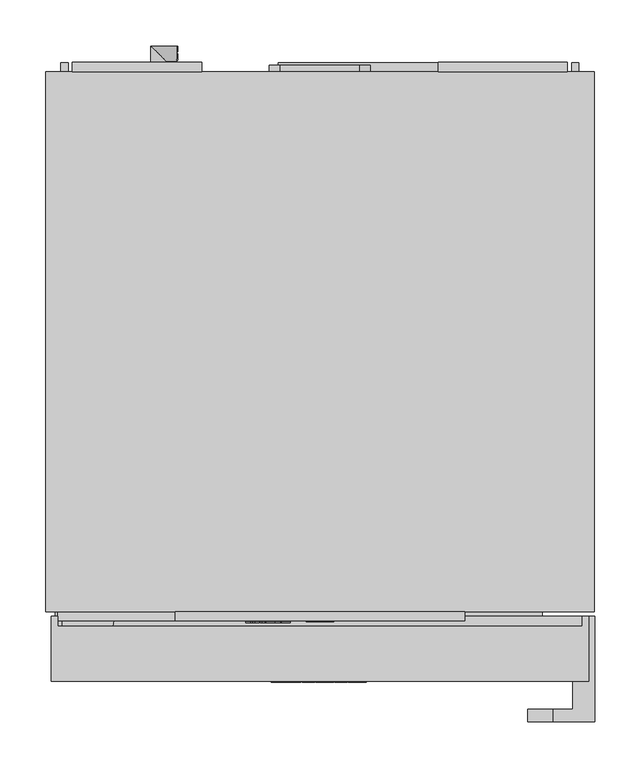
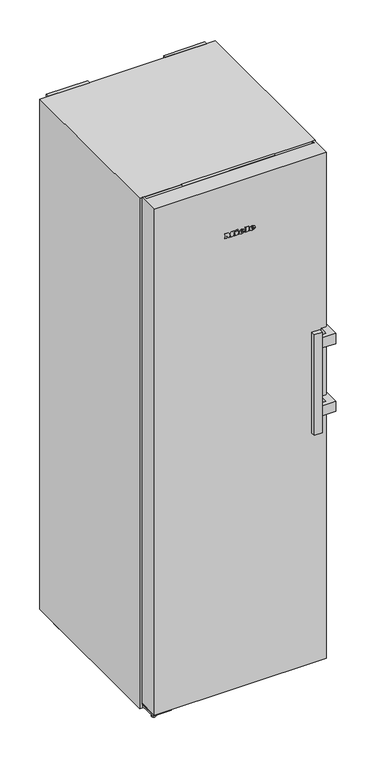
"""IFC4 building model written with IfcOpenShell, lengths in millimetres: proxy geometry, 12430760_EU2_FNS4782D_WS-N : 37478244_EU2_12430760_FNS4782D_WS-N."""

from ifc_helpers import new_model, si_unit, point, frame, frame_2d, origin, origin_with_axes, place, context, project, spatial, polyline, circle_curve, ellipse_curve, trimmed, segment, composite_curve, outline, extrude, faceted_brep, source, transform, mapped, element, save
from ifc_brep_helpers import plane_surface, cylinder_surface, revolved_surface, extruded_surface, advanced_brep


def specialty_equipment_468a70fd(model_context):
    return source(origin(), model_context, "Body", "SolidModel", [
        extrude(outline(polyline([(15.0, -609.5), (-15.0, -609.5), (-15.0, -606.5), (15.0, -606.5), (15.0, -609.5)])), frame((0.0, 0.0, 1812.0), z_axis=(0.0, 0.0, 1.0), x_axis=(1.0, 0.0, 0.0)), (0.0, 0.0, 1.0), 28.0),
        extrude(outline(polyline([(1845.5, 105.0), (1845.5, -105.0), (1806.5, -105.0), (1806.5, 105.0), (1845.5, 105.0)]), holes=[polyline([(1840.0, -15.0), (1840.0, 15.0), (1812.0, 15.0), (1812.0, -15.0), (1840.0, -15.0)])]), frame((0.0, -608.5, 0.0), z_axis=(0.0, 1.0, 0.0), x_axis=(0.0, 0.0, 1.0)), (0.0, 0.0, 1.0), 2.0),
        faceted_brep([(157.5, -598.5, 1802.0), (157.5, -608.5, 1802.0), (-157.5, -608.5, 1802.0), (-157.5, -598.5, 1802.0), (157.5, -598.5, 1850.0), (-157.5, -598.5, 1850.0), (-157.5, -608.5, 1850.0), (157.5, -608.5, 1850.0), (-105.0, -608.5, 1845.5), (105.0, -608.5, 1845.5), (105.0, -608.5, 1806.5), (-105.0, -608.5, 1806.5), (105.0, -606.5, 1845.5), (-105.0, -606.5, 1845.5), (-105.0, -606.5, 1806.5), (105.0, -606.5, 1806.5)], [[[0, 1, 2, 3]], [[4, 5, 6, 7]], [[0, 3, 5, 4]], [[3, 2, 6, 5]], [[2, 1, 7, 6], [8, 9, 10, 11]], [[1, 0, 4, 7]], [[12, 13, 14, 15]], [[13, 12, 9, 8]], [[14, 13, 8, 11]], [[15, 14, 11, 10]], [[12, 15, 10, 9]]]),
        advanced_brep(
        [(39.0804776, -675.5, 1668.7956125), (39.0804776, -675.5, 1670.5126125), (50.4534776, -675.5, 1670.5126125), (30.6654776, -675.5, 1670.5126125), (35.3404776, -675.5, 1664.7666125), (50.1644776, -675.5, 1668.7956125), (45.0304776, -675.5, 1668.7956125), (40.9844776, -675.5, 1666.8916125), (39.0804776, -675.5, 1672.6886125), (39.0804776, -675.5, 1674.5416125), (41.9874776, -675.5, 1674.5416125), (41.9874776, -675.5, 1672.6886125), (39.0804776, -674.5, 1668.7956125), (40.9844776, -674.5, 1666.8916125), (45.0304776, -674.5, 1668.7956125), (50.1644776, -674.5, 1668.7956125), (35.3404776, -674.5, 1664.7666125), (30.6654776, -674.5, 1670.5126125), (50.4534776, -674.5, 1670.5126125), (39.0804776, -674.5, 1670.5126125), (39.0804776, -674.5, 1672.6886125), (41.9874776, -674.5, 1672.6886125), (41.9874776, -674.5, 1674.5416125), (39.0804776, -674.5, 1674.5416125)],
        [
            (0, 1),
            (1, 2),
            (2, 3, ellipse_curve(frame((40.5594776, -675.5, 1670.5126125), z_axis=(0.0, -1.0, 0.0), x_axis=(-1.0, 0.0, 0.0)), 9.894, 8.177)),
            (3, 4, circle_curve(frame((37.2445704, -675.5, 1671.0906125), z_axis=(0.0, -1.0, 0.0), x_axis=(0.0, 0.0, -1.0)), 6.6044337)),
            (4, 5, circle_curve(frame((40.361414, -675.5, 1675.5786125), z_axis=(0.0, -1.0, 0.0), x_axis=(0.0, 0.0, -1.0)), 11.9209541)),
            (5, 6),
            (6, 7, circle_curve(frame((41.8154776, -675.5, 1670.3766125), z_axis=(0.0, 1.0, 0.0), x_axis=(0.0, 0.0, -1.0)), 3.5827065)),
            (7, 0, circle_curve(frame((40.9844776, -675.5, 1668.7956125), z_axis=(0.0, 1.0, 0.0), x_axis=(0.0, 0.0, -1.0)), 1.904)),
            (8, 9),
            (9, 10, circle_curve(frame((40.5339776, -675.5, 1674.5416125), z_axis=(0.0, 1.0, 0.0), x_axis=(0.0, 0.0, -1.0)), 1.4535)),
            (10, 11),
            (11, 8),
            (12, 13, circle_curve(frame((40.9844776, -674.5, 1668.7956125), z_axis=(0.0, -1.0, 0.0), x_axis=(0.0, 0.0, -1.0)), 1.904)),
            (13, 14, circle_curve(frame((41.8154776, -674.5, 1670.3766125), z_axis=(0.0, -1.0, 0.0), x_axis=(0.0, 0.0, -1.0)), 3.5827065)),
            (14, 15),
            (15, 16, circle_curve(frame((40.361414, -674.5, 1675.5786125), z_axis=(0.0, 1.0, 0.0), x_axis=(0.0, 0.0, -1.0)), 11.9209541)),
            (16, 17, circle_curve(frame((37.2445704, -674.5, 1671.0906125), z_axis=(0.0, 1.0, 0.0), x_axis=(0.0, 0.0, -1.0)), 6.6044337)),
            (17, 18, ellipse_curve(frame((40.5594776, -674.5, 1670.5126125), z_axis=(0.0, 1.0, 0.0), x_axis=(-1.0, 0.0, 0.0)), 9.894, 8.177)),
            (18, 19),
            (19, 12),
            (20, 21),
            (21, 22),
            (22, 23, circle_curve(frame((40.5339776, -674.5, 1674.5416125), z_axis=(0.0, -1.0, 0.0), x_axis=(0.0, 0.0, -1.0)), 1.4535)),
            (23, 20),
            (0, 12),
            (19, 1),
            (18, 2),
            (5, 15),
            (14, 6),
            (17, 3),
            (13, 7),
            (16, 4),
            (8, 20),
            (23, 9),
            (22, 10),
            (21, 11),
        ],
        [
            plane_surface(frame((39.0804776, -675.5, 1670.5126125), z_axis=(0.0, -1.0, 0.0), x_axis=(0.0, 0.0, 1.0))),
            plane_surface(frame((39.0804776, -674.5, 1670.5126125), z_axis=(0.0, 1.0, 0.0), x_axis=(0.0, 0.0, -1.0))),
            plane_surface(frame((39.0804776, -675.5, 1668.7956125), z_axis=(1.0, 0.0, 0.0), x_axis=(0.0, 1.0, 0.0))),
            plane_surface(frame((39.0804776, -675.5, 1670.5126125), z_axis=(0.0, 0.0, -1.0), x_axis=(0.0, 1.0, 0.0))),
            plane_surface(frame((50.1644776, -675.5, 1668.7956125), z_axis=(0.0, 0.0, 1.0), x_axis=(0.0, 1.0, 0.0))),
            extruded_surface(trimmed(ellipse_curve(frame((40.5594776, -673.5, 1670.5126125), z_axis=(0.0, -1.0, 0.0), x_axis=(-1.0, 0.0, 0.0)), 9.894, 8.177), [point((50.4534776, -673.5, 1670.5126125))], [point((30.6654776, -673.5, 1670.5126125))], True, "CARTESIAN"), (0.0, -1.0, 0.0), 1.0),
            revolved_surface(polyline([(41.8154776, -674.5, 1666.7939059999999), (41.8154776, -675.5, 1666.7939059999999)]), (41.8154776, -674.5, 1670.3766125), (0.0, 1.0, 0.0)),
            revolved_surface(polyline([(40.9844776, -674.5, 1666.8916125), (40.9844776, -675.5, 1666.8916125)]), (40.9844776, -674.5, 1668.7956125), (0.0, 1.0, 0.0)),
            cylinder_surface(frame((37.2445704, -674.5, 1671.0906125), z_axis=(0.0, -1.0, 0.0), x_axis=(0.0, 0.0, -1.0)), 6.6044337),
            cylinder_surface(frame((40.361414, -674.5, 1675.5786125), z_axis=(0.0, -1.0, 0.0), x_axis=(0.0, 0.0, -1.0)), 11.9209541),
            plane_surface(frame((39.0804776, -675.5, 1672.6886125), z_axis=(1.0, 0.0, 0.0), x_axis=(0.0, 1.0, 0.0))),
            revolved_surface(polyline([(40.5339776, -674.5, 1673.0881124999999), (40.5339776, -675.5, 1673.0881124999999)]), (40.5339776, -674.5, 1674.5416125), (0.0, 1.0, 0.0)),
            plane_surface(frame((41.9874776, -675.5, 1674.5416125), z_axis=(-1.0, 0.0, 0.0), x_axis=(0.0, 1.0, 0.0))),
            plane_surface(frame((41.9874776, -675.5, 1672.6886125), z_axis=(0.0, 0.0, 1.0), x_axis=(0.0, 1.0, 0.0))),
        ],
        [
            (0, [[1, 2, 3, 4, 5, 6, 7, 8], [9, 10, 11, 12]]),
            (1, [[13, 14, 15, 16, 17, 18, 19, 20], [21, 22, 23, 24]]),
            (2, [[-1, 25, -20, 26]]),
            (3, [[-2, -26, -19, 27]]),
            (4, [[-6, 28, -15, 29]]),
            (5, [[-3, -27, -18, 30]]),
            (6, [[-7, -29, -14, 31]]),
            (7, [[-8, -31, -13, -25]]),
            (8, [[-4, -30, -17, 32]]),
            (9, [[-5, -32, -16, -28]]),
            (10, [[-9, 33, -24, 34]]),
            (11, [[-10, -34, -23, 35]]),
            (12, [[-11, -35, -22, 36]]),
            (13, [[-12, -36, -21, -33]]),
        ],
    ),
        advanced_brep(
        [(3.6014776, -675.5, 1668.7956125), (3.6014776, -675.5, 1670.5126125), (14.9744776, -675.5, 1670.5126125), (-4.8135224, -675.5, 1670.5126125), (-0.1385224, -675.5, 1664.7666125), (14.6854776, -675.5, 1668.7956125), (9.5514776, -675.5, 1668.7956125), (5.5054776, -675.5, 1666.8916125), (3.6014776, -675.5, 1672.6886125), (3.6014776, -675.5, 1674.5416125), (6.5084776, -675.5, 1674.5416125), (6.5084776, -675.5, 1672.6886125), (3.6014776, -674.5, 1668.7956125), (5.5054776, -674.5, 1666.8916125), (9.5514776, -674.5, 1668.7956125), (14.6854776, -674.5, 1668.7956125), (-0.1385224, -674.5, 1664.7666125), (-4.8135224, -674.5, 1670.5126125), (14.9744776, -674.5, 1670.5126125), (3.6014776, -674.5, 1670.5126125), (3.6014776, -674.5, 1672.6886125), (6.5084776, -674.5, 1672.6886125), (6.5084776, -674.5, 1674.5416125), (3.6014776, -674.5, 1674.5416125)],
        [
            (0, 1),
            (1, 2),
            (2, 3, ellipse_curve(frame((5.0804776, -675.5, 1670.5126125), z_axis=(0.0, -1.0, 0.0), x_axis=(-1.0, 0.0, 0.0)), 9.894, 8.177)),
            (3, 4, circle_curve(frame((1.7655704, -675.5, 1671.0906125), z_axis=(0.0, -1.0, 0.0), x_axis=(0.0, 0.0, -1.0)), 6.6044337)),
            (4, 5, circle_curve(frame((4.882414, -675.5, 1675.5786125), z_axis=(0.0, -1.0, 0.0), x_axis=(0.0, 0.0, -1.0)), 11.9209541)),
            (5, 6),
            (6, 7, circle_curve(frame((6.3364776, -675.5, 1670.3766125), z_axis=(0.0, 1.0, 0.0), x_axis=(0.0, 0.0, -1.0)), 3.5827065)),
            (7, 0, circle_curve(frame((5.5054776, -675.5, 1668.7956125), z_axis=(0.0, 1.0, 0.0), x_axis=(0.0, 0.0, -1.0)), 1.904)),
            (8, 9),
            (9, 10, circle_curve(frame((5.0549776, -675.5, 1674.5416125), z_axis=(0.0, 1.0, 0.0), x_axis=(0.0, 0.0, -1.0)), 1.4535)),
            (10, 11),
            (11, 8),
            (12, 13, circle_curve(frame((5.5054776, -674.5, 1668.7956125), z_axis=(0.0, -1.0, 0.0), x_axis=(0.0, 0.0, -1.0)), 1.904)),
            (13, 14, circle_curve(frame((6.3364776, -674.5, 1670.3766125), z_axis=(0.0, -1.0, 0.0), x_axis=(0.0, 0.0, -1.0)), 3.5827065)),
            (14, 15),
            (15, 16, circle_curve(frame((4.882414, -674.5, 1675.5786125), z_axis=(0.0, 1.0, 0.0), x_axis=(0.0, 0.0, -1.0)), 11.9209541)),
            (16, 17, circle_curve(frame((1.7655704, -674.5, 1671.0906125), z_axis=(0.0, 1.0, 0.0), x_axis=(0.0, 0.0, -1.0)), 6.6044337)),
            (17, 18, ellipse_curve(frame((5.0804776, -674.5, 1670.5126125), z_axis=(0.0, 1.0, 0.0), x_axis=(-1.0, 0.0, 0.0)), 9.894, 8.177)),
            (18, 19),
            (19, 12),
            (20, 21),
            (21, 22),
            (22, 23, circle_curve(frame((5.0549776, -674.5, 1674.5416125), z_axis=(0.0, -1.0, 0.0), x_axis=(0.0, 0.0, -1.0)), 1.4535)),
            (23, 20),
            (0, 12),
            (19, 1),
            (18, 2),
            (5, 15),
            (14, 6),
            (17, 3),
            (13, 7),
            (16, 4),
            (8, 20),
            (23, 9),
            (22, 10),
            (21, 11),
        ],
        [
            plane_surface(frame((3.6014776, -675.5, 1670.5126125), z_axis=(0.0, -1.0, 0.0), x_axis=(0.0, 0.0, 1.0))),
            plane_surface(frame((3.6014776, -674.5, 1670.5126125), z_axis=(0.0, 1.0, 0.0), x_axis=(0.0, 0.0, -1.0))),
            plane_surface(frame((3.6014776, -675.5, 1668.7956125), z_axis=(1.0, 0.0, 0.0), x_axis=(0.0, 1.0, 0.0))),
            plane_surface(frame((3.6014776, -675.5, 1670.5126125), z_axis=(0.0, 0.0, -1.0), x_axis=(0.0, 1.0, 0.0))),
            plane_surface(frame((14.6854776, -675.5, 1668.7956125), z_axis=(0.0, 0.0, 1.0), x_axis=(0.0, 1.0, 0.0))),
            extruded_surface(trimmed(ellipse_curve(frame((5.0804776, -673.5, 1670.5126125), z_axis=(0.0, -1.0, 0.0), x_axis=(-1.0, 0.0, 0.0)), 9.894, 8.177), [point((14.9744776, -673.5, 1670.5126125))], [point((-4.8135224, -673.5, 1670.5126125))], True, "CARTESIAN"), (0.0, -1.0, 0.0), 1.0),
            revolved_surface(polyline([(6.3364776, -674.5, 1666.7939059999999), (6.3364776, -675.5, 1666.7939059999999)]), (6.3364776, -674.5, 1670.3766125), (0.0, 1.0, 0.0)),
            revolved_surface(polyline([(5.5054776, -674.5, 1666.8916125), (5.5054776, -675.5, 1666.8916125)]), (5.5054776, -674.5, 1668.7956125), (0.0, 1.0, 0.0)),
            cylinder_surface(frame((1.7655704, -674.5, 1671.0906125), z_axis=(0.0, -1.0, 0.0), x_axis=(0.0, 0.0, -1.0)), 6.6044337),
            cylinder_surface(frame((4.882414, -674.5, 1675.5786125), z_axis=(0.0, -1.0, 0.0), x_axis=(0.0, 0.0, -1.0)), 11.9209541),
            plane_surface(frame((3.6014776, -675.5, 1672.6886125), z_axis=(1.0, 0.0, 0.0), x_axis=(0.0, 1.0, 0.0))),
            revolved_surface(polyline([(5.0549776, -674.5, 1673.0881124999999), (5.0549776, -675.5, 1673.0881124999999)]), (5.0549776, -674.5, 1674.5416125), (0.0, 1.0, 0.0)),
            plane_surface(frame((6.5084776, -675.5, 1674.5416125), z_axis=(-1.0, 0.0, 0.0), x_axis=(0.0, 1.0, 0.0))),
            plane_surface(frame((6.5084776, -675.5, 1672.6886125), z_axis=(0.0, 0.0, 1.0), x_axis=(0.0, 1.0, 0.0))),
        ],
        [
            (0, [[1, 2, 3, 4, 5, 6, 7, 8], [9, 10, 11, 12]]),
            (1, [[13, 14, 15, 16, 17, 18, 19, 20], [21, 22, 23, 24]]),
            (2, [[-1, 25, -20, 26]]),
            (3, [[-2, -26, -19, 27]]),
            (4, [[-6, 28, -15, 29]]),
            (5, [[-3, -27, -18, 30]]),
            (6, [[-7, -29, -14, 31]]),
            (7, [[-8, -31, -13, -25]]),
            (8, [[-4, -30, -17, 32]]),
            (9, [[-5, -32, -16, -28]]),
            (10, [[-9, 33, -24, 34]]),
            (11, [[-10, -34, -23, 35]]),
            (12, [[-11, -35, -22, 36]]),
            (13, [[-12, -36, -21, -33]]),
        ],
    ),
        extrude(outline(polyline([(1680.7636125, -14.9795224), (1678.0096125, -13.6875224), (1680.6956125, -7.9245224), (1683.4496125, -9.1995224), (1680.7636125, -14.9795224)])), frame((0.0, -675.5, 0.0), z_axis=(0.0, 1.0, 0.0), x_axis=(0.0, 0.0, 1.0)), (0.0, 0.0, 1.0), 1.0),
        extrude(outline(polyline([(1677.6356125, -19.1785224), (1674.5926125, -19.1785224), (1674.5926125, -17.1555224), (1667.6226125, -17.1555224), (1667.6226125, -19.1785224), (1664.7666125, -19.1785224), (1664.7666125, -5.7655224), (1667.6226125, -5.7655224), (1667.6226125, -7.7375224), (1677.6356125, -7.7375224), (1677.6356125, -19.1785224)])), frame((0.0, -675.5, 0.0), z_axis=(0.0, 1.0, 0.0), x_axis=(0.0, 0.0, 1.0)), (0.0, 0.0, 1.0), 1.0),
        extrude(outline(polyline([(1678.9956125, 15.9264776), (1678.9956125, 17.9664776), (1667.6226125, 17.9664776), (1667.6226125, 15.9264776), (1664.7666125, 15.9264776), (1664.7666125, 29.7134776), (1667.6226125, 29.7134776), (1667.6226125, 27.6224776), (1681.7666125, 27.6224776), (1681.7666125, 15.9264776), (1678.9956125, 15.9264776)])), frame((0.0, -675.5, 0.0), z_axis=(0.0, 1.0, 0.0), x_axis=(0.0, 0.0, 1.0)), (0.0, 0.0, 1.0), 1.0),
        extrude(outline(polyline([(1678.9956125, -53.0595224), (1678.9956125, -51.0025224), (1667.6226125, -51.0025224), (1667.6226125, -53.0595224), (1664.7666125, -53.0595224), (1664.7666125, -45.5795224), (1667.6226125, -45.5795224), (1667.6226125, -47.6195224), (1674.7967372, -47.6195224), (1664.7666125, -40.0205224), (1675.2068348, -32.3875224), (1667.6226125, -32.3875224), (1667.6226125, -34.4785224), (1664.7666125, -34.4785224), (1664.7666125, -20.9125224), (1667.6226125, -20.9125224), (1667.6226125, -23.0715224), (1678.9956125, -23.0715224), (1678.9956125, -20.9125224), (1681.7666125, -20.9125224), (1681.7666125, -31.2655224), (1675.3916125, -36.2295224), (1681.7666125, -41.2105224), (1681.7666125, -53.0595224), (1678.9956125, -53.0595224)])), frame((0.0, -675.5, 0.0), z_axis=(0.0, 1.0, 0.0), x_axis=(0.0, 0.0, 1.0)), (0.0, 0.0, 1.0), 1.0),
        advanced_brep(
        [(-37.64, -610.5, 1828.896), (-37.64, -610.5, 1829.704), (-32.288, -610.5, 1829.704), (-41.6, -610.5, 1829.704), (-39.4, -610.5, 1827.0), (-32.424, -610.5, 1828.896), (-34.84, -610.5, 1828.896), (-36.744, -610.5, 1828.0), (-37.64, -610.5, 1830.728), (-37.64, -610.5, 1831.6), (-36.272, -610.5, 1831.6), (-36.272, -610.5, 1830.728), (-37.64, -609.5, 1828.896), (-36.744, -609.5, 1828.0), (-34.84, -609.5, 1828.896), (-32.424, -609.5, 1828.896), (-39.4, -609.5, 1827.0), (-41.6, -609.5, 1829.704), (-32.288, -609.5, 1829.704), (-37.64, -609.5, 1829.704), (-37.64, -609.5, 1830.728), (-36.272, -609.5, 1830.728), (-36.272, -609.5, 1831.6), (-37.64, -609.5, 1831.6)],
        [
            (0, 1),
            (1, 2),
            (2, 3, ellipse_curve(frame((-36.944, -610.5, 1829.704), z_axis=(0.0, -1.0, 0.0), x_axis=(-1.0, 0.0, 0.0)), 4.656, 3.848)),
            (3, 4, circle_curve(frame((-38.5039564, -610.5, 1829.976), z_axis=(0.0, -1.0, 0.0), x_axis=(0.0, 0.0, -1.0)), 3.1079688)),
            (4, 5, circle_curve(frame((-37.0372064, -610.5, 1832.088), z_axis=(0.0, -1.0, 0.0), x_axis=(0.0, 0.0, -1.0)), 5.6098607)),
            (5, 6),
            (6, 7, circle_curve(frame((-36.3529412, -610.5, 1829.64), z_axis=(0.0, 1.0, 0.0), x_axis=(0.0, 0.0, -1.0)), 1.6859795)),
            (7, 0, circle_curve(frame((-36.744, -610.5, 1828.896), z_axis=(0.0, 1.0, 0.0), x_axis=(0.0, 0.0, -1.0)), 0.896)),
            (8, 9),
            (9, 10, circle_curve(frame((-36.956, -610.5, 1831.6), z_axis=(0.0, 1.0, 0.0), x_axis=(0.0, 0.0, -1.0)), 0.684)),
            (10, 11),
            (11, 8),
            (12, 13, circle_curve(frame((-36.744, -609.5, 1828.896), z_axis=(0.0, -1.0, 0.0), x_axis=(0.0, 0.0, -1.0)), 0.896)),
            (13, 14, circle_curve(frame((-36.3529412, -609.5, 1829.64), z_axis=(0.0, -1.0, 0.0), x_axis=(0.0, 0.0, -1.0)), 1.6859795)),
            (14, 15),
            (15, 16, circle_curve(frame((-37.0372064, -609.5, 1832.088), z_axis=(0.0, 1.0, 0.0), x_axis=(0.0, 0.0, -1.0)), 5.6098607)),
            (16, 17, circle_curve(frame((-38.5039564, -609.5, 1829.976), z_axis=(0.0, 1.0, 0.0), x_axis=(0.0, 0.0, -1.0)), 3.1079688)),
            (17, 18, ellipse_curve(frame((-36.944, -609.5, 1829.704), z_axis=(0.0, 1.0, 0.0), x_axis=(-1.0, 0.0, 0.0)), 4.656, 3.848)),
            (18, 19),
            (19, 12),
            (20, 21),
            (21, 22),
            (22, 23, circle_curve(frame((-36.956, -609.5, 1831.6), z_axis=(0.0, -1.0, 0.0), x_axis=(0.0, 0.0, -1.0)), 0.684)),
            (23, 20),
            (0, 12),
            (19, 1),
            (18, 2),
            (5, 15),
            (14, 6),
            (17, 3),
            (13, 7),
            (16, 4),
            (8, 20),
            (23, 9),
            (22, 10),
            (21, 11),
        ],
        [
            plane_surface(frame((-37.64, -610.5, 1829.704), z_axis=(0.0, -1.0, 0.0), x_axis=(0.0, 0.0, 1.0))),
            plane_surface(frame((-37.64, -609.5, 1829.704), z_axis=(0.0, 1.0, 0.0), x_axis=(0.0, 0.0, -1.0))),
            plane_surface(frame((-37.64, -610.5, 1828.896), z_axis=(1.0, 0.0, 0.0), x_axis=(0.0, 1.0, 0.0))),
            plane_surface(frame((-37.64, -610.5, 1829.704), z_axis=(0.0, 0.0, -1.0), x_axis=(0.0, 1.0, 0.0))),
            plane_surface(frame((-32.424, -610.5, 1828.896), z_axis=(0.0, 0.0, 1.0), x_axis=(0.0, 1.0, 0.0))),
            extruded_surface(trimmed(ellipse_curve(frame((-36.944, -608.5, 1829.704), z_axis=(0.0, -1.0, 0.0), x_axis=(-1.0, 0.0, 0.0)), 4.656, 3.848), [point((-32.288, -608.5, 1829.704))], [point((-41.6, -608.5, 1829.704))], True, "CARTESIAN"), (0.0, -1.0, 0.0), 1.0),
            revolved_surface(polyline([(-36.3529412, -609.5, 1827.9540205), (-36.3529412, -610.5, 1827.9540205)]), (-36.3529412, -609.5, 1829.64), (0.0, 1.0, 0.0)),
            revolved_surface(polyline([(-36.744, -609.5, 1828.0), (-36.744, -610.5, 1828.0)]), (-36.744, -609.5, 1828.896), (0.0, 1.0, 0.0)),
            cylinder_surface(frame((-38.5039564, -609.5, 1829.976), z_axis=(0.0, -1.0, 0.0), x_axis=(0.0, 0.0, -1.0)), 3.1079688),
            cylinder_surface(frame((-37.0372064, -609.5, 1832.088), z_axis=(0.0, -1.0, 0.0), x_axis=(0.0, 0.0, -1.0)), 5.6098607),
            plane_surface(frame((-37.64, -610.5, 1830.728), z_axis=(1.0, 0.0, 0.0), x_axis=(0.0, 1.0, 0.0))),
            revolved_surface(polyline([(-36.956, -609.5, 1830.916), (-36.956, -610.5, 1830.916)]), (-36.956, -609.5, 1831.6), (0.0, 1.0, 0.0)),
            plane_surface(frame((-36.272, -610.5, 1831.6), z_axis=(-1.0, 0.0, 0.0), x_axis=(0.0, 1.0, 0.0))),
            plane_surface(frame((-36.272, -610.5, 1830.728), z_axis=(0.0, 0.0, 1.0), x_axis=(0.0, 1.0, 0.0))),
        ],
        [
            (0, [[1, 2, 3, 4, 5, 6, 7, 8], [9, 10, 11, 12]]),
            (1, [[13, 14, 15, 16, 17, 18, 19, 20], [21, 22, 23, 24]]),
            (2, [[-1, 25, -20, 26]]),
            (3, [[-2, -26, -19, 27]]),
            (4, [[-6, 28, -15, 29]]),
            (5, [[-3, -27, -18, 30]]),
            (6, [[-7, -29, -14, 31]]),
            (7, [[-8, -31, -13, -25]]),
            (8, [[-4, -30, -17, 32]]),
            (9, [[-5, -32, -16, -28]]),
            (10, [[-9, 33, -24, 34]]),
            (11, [[-10, -34, -23, 35]]),
            (12, [[-11, -35, -22, 36]]),
            (13, [[-12, -36, -21, -33]]),
        ],
    ),
        advanced_brep(
        [(-54.336, -610.5, 1828.896), (-54.336, -610.5, 1829.704), (-48.984, -610.5, 1829.704), (-58.296, -610.5, 1829.704), (-56.096, -610.5, 1827.0), (-49.12, -610.5, 1828.896), (-51.536, -610.5, 1828.896), (-53.44, -610.5, 1828.0), (-54.336, -610.5, 1830.728), (-54.336, -610.5, 1831.6), (-52.968, -610.5, 1831.6), (-52.968, -610.5, 1830.728), (-54.336, -609.5, 1828.896), (-53.44, -609.5, 1828.0), (-51.536, -609.5, 1828.896), (-49.12, -609.5, 1828.896), (-56.096, -609.5, 1827.0), (-58.296, -609.5, 1829.704), (-48.984, -609.5, 1829.704), (-54.336, -609.5, 1829.704), (-54.336, -609.5, 1830.728), (-52.968, -609.5, 1830.728), (-52.968, -609.5, 1831.6), (-54.336, -609.5, 1831.6)],
        [
            (0, 1),
            (1, 2),
            (2, 3, ellipse_curve(frame((-53.64, -610.5, 1829.704), z_axis=(0.0, -1.0, 0.0), x_axis=(-1.0, 0.0, 0.0)), 4.656, 3.848)),
            (3, 4, circle_curve(frame((-55.1999564, -610.5, 1829.976), z_axis=(0.0, -1.0, 0.0), x_axis=(0.0, 0.0, -1.0)), 3.1079688)),
            (4, 5, circle_curve(frame((-53.7332064, -610.5, 1832.088), z_axis=(0.0, -1.0, 0.0), x_axis=(0.0, 0.0, -1.0)), 5.6098607)),
            (5, 6),
            (6, 7, circle_curve(frame((-53.0489412, -610.5, 1829.64), z_axis=(0.0, 1.0, 0.0), x_axis=(0.0, 0.0, -1.0)), 1.6859795)),
            (7, 0, circle_curve(frame((-53.44, -610.5, 1828.896), z_axis=(0.0, 1.0, 0.0), x_axis=(0.0, 0.0, -1.0)), 0.896)),
            (8, 9),
            (9, 10, circle_curve(frame((-53.652, -610.5, 1831.6), z_axis=(0.0, 1.0, 0.0), x_axis=(0.0, 0.0, -1.0)), 0.684)),
            (10, 11),
            (11, 8),
            (12, 13, circle_curve(frame((-53.44, -609.5, 1828.896), z_axis=(0.0, -1.0, 0.0), x_axis=(0.0, 0.0, -1.0)), 0.896)),
            (13, 14, circle_curve(frame((-53.0489412, -609.5, 1829.64), z_axis=(0.0, -1.0, 0.0), x_axis=(0.0, 0.0, -1.0)), 1.6859795)),
            (14, 15),
            (15, 16, circle_curve(frame((-53.7332064, -609.5, 1832.088), z_axis=(0.0, 1.0, 0.0), x_axis=(0.0, 0.0, -1.0)), 5.6098607)),
            (16, 17, circle_curve(frame((-55.1999564, -609.5, 1829.976), z_axis=(0.0, 1.0, 0.0), x_axis=(0.0, 0.0, -1.0)), 3.1079688)),
            (17, 18, ellipse_curve(frame((-53.64, -609.5, 1829.704), z_axis=(0.0, 1.0, 0.0), x_axis=(-1.0, 0.0, 0.0)), 4.656, 3.848)),
            (18, 19),
            (19, 12),
            (20, 21),
            (21, 22),
            (22, 23, circle_curve(frame((-53.652, -609.5, 1831.6), z_axis=(0.0, -1.0, 0.0), x_axis=(0.0, 0.0, -1.0)), 0.684)),
            (23, 20),
            (0, 12),
            (19, 1),
            (18, 2),
            (5, 15),
            (14, 6),
            (17, 3),
            (13, 7),
            (16, 4),
            (8, 20),
            (23, 9),
            (22, 10),
            (21, 11),
        ],
        [
            plane_surface(frame((-54.336, -610.5, 1829.704), z_axis=(0.0, -1.0, 0.0), x_axis=(0.0, 0.0, 1.0))),
            plane_surface(frame((-54.336, -609.5, 1829.704), z_axis=(0.0, 1.0, 0.0), x_axis=(0.0, 0.0, -1.0))),
            plane_surface(frame((-54.336, -610.5, 1828.896), z_axis=(1.0, 0.0, 0.0), x_axis=(0.0, 1.0, 0.0))),
            plane_surface(frame((-54.336, -610.5, 1829.704), z_axis=(0.0, 0.0, -1.0), x_axis=(0.0, 1.0, 0.0))),
            plane_surface(frame((-49.12, -610.5, 1828.896), z_axis=(0.0, 0.0, 1.0), x_axis=(0.0, 1.0, 0.0))),
            extruded_surface(trimmed(ellipse_curve(frame((-53.64, -608.5, 1829.704), z_axis=(0.0, -1.0, 0.0), x_axis=(-1.0, 0.0, 0.0)), 4.656, 3.848), [point((-48.984, -608.5, 1829.704))], [point((-58.296, -608.5, 1829.704))], True, "CARTESIAN"), (0.0, -1.0, 0.0), 1.0),
            revolved_surface(polyline([(-53.0489412, -609.5, 1827.9540205), (-53.0489412, -610.5, 1827.9540205)]), (-53.0489412, -609.5, 1829.64), (0.0, 1.0, 0.0)),
            revolved_surface(polyline([(-53.44, -609.5, 1828.0), (-53.44, -610.5, 1828.0)]), (-53.44, -609.5, 1828.896), (0.0, 1.0, 0.0)),
            cylinder_surface(frame((-55.1999564, -609.5, 1829.976), z_axis=(0.0, -1.0, 0.0), x_axis=(0.0, 0.0, -1.0)), 3.1079688),
            cylinder_surface(frame((-53.7332064, -609.5, 1832.088), z_axis=(0.0, -1.0, 0.0), x_axis=(0.0, 0.0, -1.0)), 5.6098607),
            plane_surface(frame((-54.336, -610.5, 1830.728), z_axis=(1.0, 0.0, 0.0), x_axis=(0.0, 1.0, 0.0))),
            revolved_surface(polyline([(-53.652, -609.5, 1830.916), (-53.652, -610.5, 1830.916)]), (-53.652, -609.5, 1831.6), (0.0, 1.0, 0.0)),
            plane_surface(frame((-52.968, -610.5, 1831.6), z_axis=(-1.0, 0.0, 0.0), x_axis=(0.0, 1.0, 0.0))),
            plane_surface(frame((-52.968, -610.5, 1830.728), z_axis=(0.0, 0.0, 1.0), x_axis=(0.0, 1.0, 0.0))),
        ],
        [
            (0, [[1, 2, 3, 4, 5, 6, 7, 8], [9, 10, 11, 12]]),
            (1, [[13, 14, 15, 16, 17, 18, 19, 20], [21, 22, 23, 24]]),
            (2, [[-1, 25, -20, 26]]),
            (3, [[-2, -26, -19, 27]]),
            (4, [[-6, 28, -15, 29]]),
            (5, [[-3, -27, -18, 30]]),
            (6, [[-7, -29, -14, 31]]),
            (7, [[-8, -31, -13, -25]]),
            (8, [[-4, -30, -17, 32]]),
            (9, [[-5, -32, -16, -28]]),
            (10, [[-9, 33, -24, 34]]),
            (11, [[-10, -34, -23, 35]]),
            (12, [[-11, -35, -22, 36]]),
            (13, [[-12, -36, -21, -33]]),
        ],
    ),
        extrude(outline(polyline([(1834.528, -63.08), (1833.232, -62.472), (1834.496, -59.76), (1835.792, -60.36), (1834.528, -63.08)])), frame((0.0, -610.5, 0.0), z_axis=(0.0, 1.0, 0.0), x_axis=(0.0, 0.0, 1.0)), (0.0, 0.0, 1.0), 1.0),
        extrude(outline(polyline([(1833.056, -65.056), (1831.624, -65.056), (1831.624, -64.104), (1828.344, -64.104), (1828.344, -65.056), (1827.0, -65.056), (1827.0, -58.744), (1828.344, -58.744), (1828.344, -59.672), (1833.056, -59.672), (1833.056, -65.056)])), frame((0.0, -610.5, 0.0), z_axis=(0.0, 1.0, 0.0), x_axis=(0.0, 0.0, 1.0)), (0.0, 0.0, 1.0), 1.0),
        extrude(outline(polyline([(1833.696, -48.536), (1833.696, -47.576), (1828.344, -47.576), (1828.344, -48.536), (1827.0, -48.536), (1827.0, -42.048), (1828.344, -42.048), (1828.344, -43.032), (1835.0, -43.032), (1835.0, -48.536), (1833.696, -48.536)])), frame((0.0, -610.5, 0.0), z_axis=(0.0, 1.0, 0.0), x_axis=(0.0, 0.0, 1.0)), (0.0, 0.0, 1.0), 1.0),
        extrude(outline(polyline([(1833.696, -81.0), (1833.696, -80.032), (1828.344, -80.032), (1828.344, -81.0), (1827.0, -81.0), (1827.0, -77.48), (1828.344, -77.48), (1828.344, -78.44), (1831.7471247, -78.44), (1827.0, -74.864), (1831.8152223, -71.272), (1828.344, -71.272), (1828.344, -72.256), (1827.0, -72.256), (1827.0, -65.872), (1828.344, -65.872), (1828.344, -66.888), (1833.696, -66.888), (1833.696, -65.872), (1835.0, -65.872), (1835.0, -70.744), (1832.0, -73.08), (1835.0, -75.424), (1835.0, -81.0), (1833.696, -81.0)])), frame((0.0, -610.5, 0.0), z_axis=(0.0, 1.0, 0.0), x_axis=(0.0, 0.0, 1.0)), (0.0, 0.0, 1.0), 1.0),
        extrude(outline(polyline([(-42.8527823, 0.0), (-48.1304417, 3.2708192), (-29.8908031, 3.2708192), (-34.9274229, 0.0), (-42.8527823, 0.0)])), frame((238.5469678, 0.0, 0.0), z_axis=(1.0, 0.0, 0.0), x_axis=(0.0, 1.0, 0.0)), (0.0, 0.0, 1.0), 15.1632647),
        extrude(outline(polyline([(-42.8527823, 0.0), (-48.1304417, 3.2708192), (-29.8908031, 3.2708192), (-34.9274229, 0.0), (-42.8527823, 0.0)])), frame((-253.7102325, 0.0, 0.0), z_axis=(1.0, 0.0, 0.0), x_axis=(0.0, 1.0, 0.0)), (0.0, 0.0, 1.0), 15.1632647),
        extrude(outline(polyline([(2.1227397, 65.0), (2.1227397, 75.045631), (9.343037, 75.045631), (9.343037, 73.7899271), (3.3784436, 73.7899271), (3.3784436, 70.8076304), (9.029111, 70.8076304), (9.029111, 69.5519266), (3.3784436, 69.5519266), (3.3784436, 66.2557039), (9.5, 66.2557039), (9.5, 65.0), (2.1227397, 65.0)])), frame((-156.0615355, 0.0, 0.0), z_axis=(1.0, 0.0, 0.0), x_axis=(0.0, 1.0, 0.0)), (0.0, 0.0, 1.0), 1.0),
        extrude(outline(polyline([(11.3835558, 65.0), (11.3835558, 75.045631), (12.6392597, 75.045631), (12.6392597, 66.2557039), (17.6620752, 66.2557039), (17.6620752, 65.0), (11.3835558, 65.0)])), frame((-156.0615355, 0.0, 0.0), z_axis=(1.0, 0.0, 0.0), x_axis=(0.0, 1.0, 0.0)), (0.0, 0.0, 1.0), 1.0),
        advanced_brep(
        [(-168.0615355, -10.5, 70.0), (-184.0615355, -10.5, 70.0), (-168.0615355, 1.5, 70.0), (-184.0615355, 17.5, 70.0), (-156.0615355, 1.5, 70.0), (-156.0615355, 17.5, 70.0)],
        [
            (0, 1, circle_curve(frame((-176.0615355, -10.5, 70.0), z_axis=(0.0, -1.0, 0.0), x_axis=(-1.0, 0.0, 0.0)), 8.0)),
            (1, 0, circle_curve(frame((-176.0615355, -10.5, 70.0), z_axis=(0.0, -1.0, 0.0), x_axis=(-1.0, 0.0, 0.0)), 8.0)),
            (0, 2),
            (2, 3, ellipse_curve(frame((-176.0615355, 9.5, 70.0), z_axis=(-0.7071067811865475, -0.7071067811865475, 0.0), x_axis=(0.7071067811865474, -0.7071067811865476, 0.0)), 11.3137085, 8.0)),
            (3, 1),
            (3, 2, ellipse_curve(frame((-176.0615355, 9.5, 70.0), z_axis=(-0.7071067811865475, -0.7071067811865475, 0.0), x_axis=(0.7071067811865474, -0.7071067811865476, 0.0)), 11.3137085, 8.0)),
            (4, 5, circle_curve(frame((-156.0615355, 9.5, 70.0), z_axis=(1.0, 0.0, 0.0), x_axis=(0.0, 1.0, 0.0)), 8.0)),
            (5, 4, circle_curve(frame((-156.0615355, 9.5, 70.0), z_axis=(1.0, 0.0, 0.0), x_axis=(0.0, 1.0, 0.0)), 8.0)),
            (2, 4),
            (5, 3),
        ],
        [
            plane_surface(frame((-176.0615355, -10.5, 0.0), z_axis=(0.0, -1.0, 0.0), x_axis=(0.0, 0.0, 1.0))),
            cylinder_surface(frame((-176.0615355, -10.5, 70.0), z_axis=(0.0, -1.0, 0.0), x_axis=(-1.0, 0.0, 0.0)), 8.0),
            plane_surface(frame((-156.0615355, 9.5, 0.0), z_axis=(1.0, 0.0, 0.0), x_axis=(0.0, 0.0, 1.0))),
            cylinder_surface(frame((-176.0615355, 9.5, 70.0), z_axis=(-1.0, 0.0, 0.0), x_axis=(0.0, 1.0, 0.0)), 8.0),
        ],
        [
            (0, [[1, 2]]),
            (1, [[-1, 3, 4, 5]]),
            (1, [[-2, -5, 6, -3]]),
            (2, [[7, 8]]),
            (3, [[-4, 9, -8, 10]]),
            (3, [[-6, -10, -7, -9]]),
        ],
    ),
        extrude(outline(polyline([(-118.9841834, 15.0), (-62.9841834, 15.0), (-75.5706779, 0.0), (-106.3976889, 0.0), (-118.9841834, 15.0)])), frame((-288.5, 0.0, 0.0), z_axis=(1.0, 0.0, 0.0), x_axis=(0.0, 1.0, 0.0)), (0.0, 0.0, 1.0), 16.0),
        extrude(outline(polyline([(-118.9841834, 15.0), (-62.9841834, 15.0), (-75.5706779, 0.0), (-106.3976889, 0.0), (-118.9841834, 15.0)])), frame((272.5, 0.0, 0.0), z_axis=(1.0, 0.0, 0.0), x_axis=(0.0, 1.0, 0.0)), (0.0, 0.0, 1.0), 16.0),
        extrude(outline(polyline([(281.8051758, -10.5), (274.2947998, -10.5), (274.2947998, -0.5), (281.8051758, -0.5), (281.8051758, -10.5)])), frame((0.0, 0.0, 239.4947815), z_axis=(0.0, 0.0, 1.0), x_axis=(1.0, 0.0, 0.0)), (0.0, 0.0, 1.0), 18.4103699),
        extrude(outline(polyline([(-274.0827332, -10.5), (-282.1051331, -10.5), (-282.1051331, -0.5), (-274.0827332, -0.5), (-274.0827332, -10.5)])), frame((0.0, 0.0, 239.4947815), z_axis=(0.0, 0.0, 1.0), x_axis=(1.0, 0.0, 0.0)), (0.0, 0.0, 1.0), 18.3224792),
        extrude(outline(polyline([(190.0, 177.5), (133.0, 177.5), (133.0, -45.5), (64.0, -45.5), (64.0, 258.5), (190.0, 258.5), (190.0, 177.5)])), frame((0.0, -10.5, 0.0), z_axis=(0.0, 1.0, 0.0), x_axis=(0.0, 0.0, 1.0)), (0.0, 0.0, 1.0), 10.0),
        extrude(outline(polyline([(269.5372046, -10.5), (129.0, -10.5), (129.0, 0.0), (269.5372046, 0.0), (269.5372046, -10.5)])), frame((0.0, 0.0, 1826.0), z_axis=(0.0, 0.0, 1.0), x_axis=(1.0, 0.0, 0.0)), (0.0, 0.0, 1.0), 24.0),
        extrude(outline(polyline([(-129.0, -10.5), (-269.5372046, -10.5), (-269.5372046, 0.0), (-129.0, 0.0), (-129.0, -10.5)])), frame((0.0, 0.0, 1826.0), z_axis=(0.0, 0.0, 1.0), x_axis=(1.0, 0.0, 0.0)), (0.0, 0.0, 1.0), 24.0),
        extrude(outline(polyline([(64.0, -159.5), (-64.0, -159.5), (-64.0, -71.5), (64.0, -71.5), (64.0, -159.5)])), frame((0.0, 0.0, 1636.0), z_axis=(0.0, 0.0, 1.0), x_axis=(1.0, 0.0, 0.0)), (0.0, 0.0, 1.0), 177.6535004),
        extrude(outline(polyline([(55.0, -521.5), (55.0, -575.5), (-55.0, -575.5), (-55.0, -521.5), (55.0, -521.5)])), frame((0.0, 0.0, 1759.0), z_axis=(0.0, 0.0, 1.0), x_axis=(1.0, 0.0, 0.0)), (0.0, 0.0, 1.0), 1.0),
        extrude(outline(composite_curve([segment(trimmed(circle_curve(frame_2d((-248.75, -584.5)), 10.0), [point((-258.75, -584.5))], [point((-238.75, -584.5))], False, "CARTESIAN"), True, "CONTINUOUS"), segment(trimmed(circle_curve(frame_2d((-248.75, -584.5)), 10.0), [point((-238.75, -584.5))], [point((-258.75, -584.5))], False, "CARTESIAN"), True, "CONTINUOUS")], self_intersect=False)), origin_with_axes(), (0.0, 0.0, 1.0), 15.0),
        extrude(outline(composite_curve([segment(trimmed(circle_curve(frame_2d((248.75, -584.4761218)), 10.0), [point((238.75, -584.4761218))], [point((258.75, -584.4761218))], False, "CARTESIAN"), True, "CONTINUOUS"), segment(trimmed(circle_curve(frame_2d((248.75, -584.4761218)), 10.0), [point((258.75, -584.4761218))], [point((238.75, -584.4761218))], False, "CARTESIAN"), True, "CONTINUOUS")], self_intersect=False)), origin_with_axes(), (0.0, 0.0, 1.0), 15.0),
        extrude(outline(polyline([(240.0, -290.5), (-240.0, -290.5), (-240.0, -71.5), (240.0, -71.5), (240.0, -290.5)])), frame((0.0, 0.0, 129.0), z_axis=(0.0, 0.0, 1.0), x_axis=(1.0, 0.0, 0.0)), (0.0, 0.0, 1.0), 190.0),
        extrude(outline(composite_curve([segment(trimmed(circle_curve(frame_2d((1162.0, -43.0)), 12.0), [point((1174.0, -43.0))], [point((1162.0, -55.0))], False, "CARTESIAN"), True, "CONTINUOUS"), segment(polyline([(1162.0, -55.0), (1138.0, -55.0)]), True, "CONTINUOUS"), segment(trimmed(circle_curve(frame_2d((1138.0, -43.0)), 12.0), [point((1138.0, -55.0))], [point((1126.0, -43.0))], False, "CARTESIAN"), True, "CONTINUOUS"), segment(polyline([(1126.0, -43.0), (1126.0, 43.0)]), True, "CONTINUOUS"), segment(trimmed(circle_curve(frame_2d((1138.0, 43.0)), 12.0), [point((1126.0, 43.0))], [point((1138.0, 55.0))], False, "CARTESIAN"), True, "CONTINUOUS"), segment(polyline([(1138.0, 55.0), (1162.0, 55.0)]), True, "CONTINUOUS"), segment(trimmed(circle_curve(frame_2d((1162.0, 43.0)), 12.0), [point((1162.0, 55.0))], [point((1174.0, 43.0))], False, "CARTESIAN"), True, "CONTINUOUS"), segment(polyline([(1174.0, 43.0), (1174.0, -43.0)]), True, "CONTINUOUS")], self_intersect=False)), frame((0.0, -10.5, 0.0), z_axis=(0.0, 1.0, 0.0), x_axis=(0.0, 0.0, 1.0)), (0.0, 0.0, 1.0), 7.0),
        extrude(outline(polyline([(272.5, -28.6436023), (272.5, -529.6387407), (-272.5, -529.6387407), (-272.5, -28.6436023), (272.5, -28.6436023)])), frame((0.0, 0.0, 3.2708192), z_axis=(0.0, 0.0, 1.0), x_axis=(1.0, 0.0, 0.0)), (0.0, 0.0, 1.0), 11.7291808),
        faceted_brep([(298.5, -10.5, 1850.0), (-298.5, -10.5, 1850.0), (-298.5, -598.5, 1850.0), (298.5, -598.5, 1850.0), (298.5, -10.5, 15.0), (298.5, -598.5, 15.0), (-298.5, -598.5, 15.0), (-298.5, -10.5, 15.0), (-240.0, -598.5, 1760.0), (240.0, -598.5, 1760.0), (240.0, -598.5, 129.0), (-240.0, -598.5, 129.0), (-240.0, -468.5, 1760.0), (240.0, -468.5, 1760.0), (240.0, -71.5, 129.0), (-240.0, -71.5, 129.0), (240.0, -71.5, 1813.6535004), (-240.0, -71.5, 1813.6535004), (-240.0, -468.5, 1813.6535004), (240.0, -468.5, 1813.6535004)], [[[0, 1, 2, 3]], [[4, 5, 6, 7]], [[1, 0, 4, 7]], [[2, 1, 7, 6]], [[3, 2, 6, 5], [8, 9, 10, 11]], [[0, 3, 5, 4]], [[9, 8, 12, 13]], [[14, 15, 11, 10]], [[15, 14, 16, 17]], [[15, 17, 18, 12, 8, 11]], [[16, 14, 10, 9, 13, 19]], [[19, 18, 17, 16]], [[18, 19, 13, 12]]]),
        extrude(outline(composite_curve([segment(trimmed(circle_curve(frame_2d((-276.9539666, -644.7854989)), 7.0), [point((-269.9539666, -644.7854989))], [point((-283.9539666, -644.7854989))], False, "CARTESIAN"), True, "CONTINUOUS"), segment(trimmed(circle_curve(frame_2d((-276.9539666, -644.7854989)), 7.0), [point((-283.9539666, -644.7854989))], [point((-269.9539666, -644.7854989))], False, "CARTESIAN"), True, "CONTINUOUS")], self_intersect=False)), frame((0.0, 0.0, 10.0), z_axis=(0.0, 0.0, 1.0), x_axis=(1.0, 0.0, 0.0)), (0.0, 0.0, 1.0), 11.0),
        extrude(outline(polyline([(-227.8680756, -660.5), (-291.8779467, -660.5), (-291.8779467, -603.5), (-227.8680756, -603.5), (-227.8680756, -660.5)])), frame((0.0, 0.0, 31.5014777), z_axis=(0.0, 0.0, 1.0), x_axis=(1.0, 0.0, 0.0)), (0.0, 0.0, 1.0), 4.4985223),
        extrude(outline(composite_curve([segment(trimmed(circle_curve(frame_2d((-274.5, -642.5)), 10.0), [point((-264.5, -642.5))], [point((-284.5, -642.5))], False, "CARTESIAN"), True, "CONTINUOUS"), segment(trimmed(circle_curve(frame_2d((-274.5, -642.5)), 10.0), [point((-284.5, -642.5))], [point((-264.5, -642.5))], False, "CARTESIAN"), True, "CONTINUOUS")], self_intersect=False)), frame((0.0, 0.0, 27.5), z_axis=(0.0, 0.0, 1.0), x_axis=(1.0, 0.0, 0.0)), (0.0, 0.0, 1.0), 4.5),
        extrude(outline(polyline([(242.0, -603.5), (-242.0, -603.5), (-242.0, -598.5), (242.0, -598.5), (242.0, -603.5)])), frame((0.0, 0.0, 128.0014777), z_axis=(0.0, 0.0, 1.0), x_axis=(1.0, 0.0, 0.0)), (0.0, 0.0, 1.0), 1639.0),
        extrude(outline(polyline([(253.6000061, -718.5), (226.5, -718.5), (226.5, -704.5), (253.6000061, -704.5), (253.6000061, -718.5)])), frame((0.0, 0.0, 886.0), z_axis=(0.0, 0.0, 1.0), x_axis=(1.0, 0.0, 0.0)), (0.0, 0.0, 1.0), 362.0443098),
        extrude(outline(polyline([(299.5, -718.5), (253.6000061, -718.5), (253.6000061, -704.5), (275.5, -704.5), (275.5, -674.5), (292.5, -674.5), (292.5, -603.5), (299.5, -603.5), (299.5, -718.5)])), frame((0.0, 0.0, 947.0735942), z_axis=(0.0, 0.0, 1.0), x_axis=(1.0, 0.0, 0.0)), (0.0, 0.0, 1.0), 36.1796802),
        extrude(outline(polyline([(299.5, -718.5), (253.6000061, -718.5), (253.6000061, -704.5), (275.5, -704.5), (275.5, -674.5), (292.5, -674.5), (292.5, -603.5), (299.5, -603.5), (299.5, -718.5)])), frame((0.0, 0.0, 1191.0735942), z_axis=(0.0, 0.0, 1.0), x_axis=(1.0, 0.0, 0.0)), (0.0, 0.0, 1.0), 36.1796802),
        extrude(outline(polyline([(-233.3907627, -657.6644264), (-282.5, -657.6644264), (-280.684623, -608.5), (-224.7217479, -608.5), (-233.3907627, -657.6644264)])), frame((0.0, 0.0, 1817.6745089), z_axis=(0.0, 0.0, 1.0), x_axis=(1.0, 0.0, 0.0)), (0.0, 0.0, 1.0), 23.7898602),
        extrude(outline(polyline([(-157.5, -608.5), (-285.5, -608.5), (-285.5, -598.5), (-157.5, -598.5), (-157.5, -608.5)])), frame((0.0, 0.0, 1800.5014777), z_axis=(0.0, 0.0, 1.0), x_axis=(1.0, 0.0, 0.0)), (0.0, 0.0, 1.0), 48.0),
        extrude(outline(polyline([(-598.5, 21.0), (-660.5, 21.0), (-660.5, 27.0014777), (-603.5, 27.0014777), (-603.5, 69.0014777), (-598.5, 69.0014777), (-598.5, 21.0)])), frame((-288.5, 0.0, 0.0), z_axis=(1.0, 0.0, 0.0), x_axis=(0.0, 1.0, 0.0)), (0.0, 0.0, 1.0), 62.0),
        advanced_brep(
        [(292.5, -674.5, 1854.0), (-292.5, -674.5, 1854.0), (-292.5, -674.5, 36.0), (292.5, -674.5, 36.0), (292.5, -603.5, 1854.0), (292.5, -603.5, 36.0), (222.5, -603.5, 36.0), (222.5, -603.5, 66.0), (-222.5, -603.5, 66.0), (-222.5, -603.5, 36.0), (-292.5, -603.5, 36.0), (-292.5, -603.5, 1854.0), (-285.5, -603.5, 1854.0), (-285.5, -603.5, 1848.5014777), (-287.5, -603.5, 1848.5014777), (-287.5, -603.5, 1797.0), (285.5, -603.5, 1797.0), (285.5, -603.5, 1854.0), (285.5, -614.5, 1854.0), (-285.5, -614.5, 1854.0), (-222.5, -645.4397305, 36.0), (222.5, -645.4397305, 36.0), (222.5, -617.5, 66.0), (-222.5, -617.5, 66.0), (285.5, -614.5, 1797.0), (-194.5, -614.5, 1797.0), (-194.5, -614.5, 1848.5014777), (-285.5, -614.5, 1848.5014777), (-287.5, -660.3426016, 1797.0), (-194.5, -660.3426016, 1797.0), (-194.5, -660.3426016, 1848.5014777), (-287.5, -660.3426016, 1848.5014777)],
        [
            (0, 1),
            (1, 2),
            (2, 3),
            (3, 0),
            (4, 5),
            (5, 6),
            (6, 7),
            (7, 8),
            (8, 9),
            (9, 10),
            (10, 11),
            (11, 12),
            (12, 13),
            (13, 14),
            (14, 15),
            (15, 16),
            (16, 17),
            (17, 4),
            (0, 4),
            (17, 18),
            (18, 19),
            (19, 12),
            (11, 1),
            (10, 2),
            (9, 20),
            (20, 21),
            (21, 6),
            (5, 3),
            (22, 7),
            (21, 22, circle_curve(frame((222.5, -612.8834964, 33.6900621), z_axis=(-1.0, 0.0, 0.0), x_axis=(0.0, 1.0, 0.0)), 32.6380788)),
            (23, 20, circle_curve(frame((-222.5, -612.8834964, 33.6900621), z_axis=(1.0, 0.0, 0.0), x_axis=(0.0, 1.0, 0.0)), 32.6380788)),
            (8, 23),
            (23, 22),
            (18, 24),
            (24, 25),
            (25, 26),
            (26, 27),
            (27, 19),
            (24, 16),
            (15, 28),
            (28, 29),
            (29, 25),
            (30, 29),
            (28, 31),
            (31, 30),
            (30, 26),
            (14, 31),
            (13, 27),
        ],
        [
            plane_surface(frame((-292.5, -674.5, 1854.0), z_axis=(0.0, -1.0, 0.0), x_axis=(-1.0, 0.0, 0.0))),
            plane_surface(frame((-292.5, -603.5, 1854.0), z_axis=(0.0, 1.0, 0.0), x_axis=(1.0, 0.0, 0.0))),
            plane_surface(frame((292.5, -674.5, 1854.0), z_axis=(0.0, 0.0, 1.0), x_axis=(0.0, 1.0, 0.0))),
            plane_surface(frame((-292.5, -674.5, 1854.0), z_axis=(-1.0, 0.0, 0.0), x_axis=(0.0, 1.0, 0.0))),
            plane_surface(frame((-292.5, -674.5, 36.0), z_axis=(0.0, 0.0, -1.0), x_axis=(0.0, 1.0, 0.0))),
            plane_surface(frame((292.5, -674.5, 36.0), z_axis=(1.0, 0.0, 0.0), x_axis=(0.0, 1.0, 0.0))),
            plane_surface(frame((222.5, -580.2454176, 33.6900621), z_axis=(-1.0, 0.0, 0.0), x_axis=(0.0, 0.0, 1.0))),
            plane_surface(frame((-222.5, -580.2454176, 33.6900621), z_axis=(1.0, 0.0, 0.0), x_axis=(0.0, 0.0, -1.0))),
            revolved_surface(polyline([(222.5, -580.2454176, 33.6900621), (-222.5, -580.2454176, 33.6900621)]), (-222.5, -612.8834964, 33.6900621), (1.0, 0.0, 0.0)),
            plane_surface(frame((222.5, -603.5, 66.0), z_axis=(0.0, 0.0, -1.0), x_axis=(-1.0, 0.0, 0.0))),
            plane_surface(frame((285.5, -614.5, 1867.7474822), z_axis=(0.0, 1.0, 0.0), x_axis=(-1.0, 0.0, 0.0))),
            plane_surface(frame((285.5, -614.5, 1797.0), z_axis=(0.0, 0.0, 1.0), x_axis=(-1.0, 0.0, 0.0))),
            plane_surface(frame((-287.5, -660.3426016, 1848.5014777), z_axis=(0.0, 1.0, 0.0), x_axis=(-1.0, 0.0, 0.0))),
            plane_surface(frame((-194.5, -660.3426016, 1797.0), z_axis=(-1.0, 0.0, 0.0), x_axis=(0.0, 1.0, 0.0))),
            plane_surface(frame((-287.5, -660.3426016, 1848.5014777), z_axis=(1.0, 0.0, 0.0), x_axis=(0.0, 1.0, 0.0))),
            plane_surface(frame((-194.5, -660.3426016, 1848.5014777), z_axis=(0.0, 0.0, -1.0), x_axis=(0.0, 1.0, 0.0))),
            plane_surface(frame((-285.5, -603.5, 1797.0), z_axis=(1.0, 0.0, 0.0), x_axis=(0.0, 0.0, -1.0))),
            plane_surface(frame((285.5, -603.5, 1797.0), z_axis=(-1.0, 0.0, 0.0), x_axis=(0.0, 0.0, 1.0))),
        ],
        [
            (0, [[1, 2, 3, 4]]),
            (1, [[5, 6, 7, 8, 9, 10, 11, 12, 13, 14, 15, 16, 17, 18]]),
            (2, [[-1, 19, -18, 20, 21, 22, -12, 23]]),
            (3, [[-2, -23, -11, 24]]),
            (4, [[-3, -24, -10, 25, 26, 27, -6, 28]]),
            (5, [[-4, -28, -5, -19]]),
            (6, [[29, -7, -27, 30]]),
            (7, [[31, -25, -9, 32]]),
            (8, [[-30, -26, -31, 33]]),
            (9, [[-29, -33, -32, -8]]),
            (10, [[34, 35, 36, 37, 38, -21]]),
            (11, [[39, -16, 40, 41, 42, -35]]),
            (12, [[43, -41, 44, 45]]),
            (13, [[-43, 46, -36, -42]]),
            (14, [[-44, -40, -15, 47]]),
            (15, [[-45, -47, -14, 48, -37, -46]]),
            (16, [[-22, -38, -48, -13]]),
            (17, [[-39, -34, -20, -17]]),
        ],
    ),
    ])


if __name__ == "__main__":
    model = new_model("IFC4")
    model_context = context("Model", 3, world=origin())
    ifc_project = project(units=[si_unit("LENGTHUNIT", "METRE", prefix="MILLI")], contexts=[model_context])
    site = spatial("IfcSite", under=ifc_project)
    building = spatial("IfcBuilding", under=site)
    placement = place(None, origin())
    specialty_equipment_shape = specialty_equipment_468a70fd(model_context)
    element("IfcBuildingElementProxy", 1, Name="12430760_EU2_FNS4782D_WS-N : 37478244_EU2_12430760_FNS4782D_WS-N", ObjectType="12430760_EU2_FNS4782D_WS-N : 37478244_EU2_12430760_FNS4782D_WS-N", at=placement, inside=building, context=model_context, shape_type="MappedRepresentation", body=[
        mapped(specialty_equipment_shape, transform((0.0, 0.0, 0.0), x_axis=(1.0, 0.0, 0.0), y_axis=(0.0, 1.0, 0.0), z_axis=(0.0, 0.0, 1.0))),
    ])
    save(model, "model.ifc")
